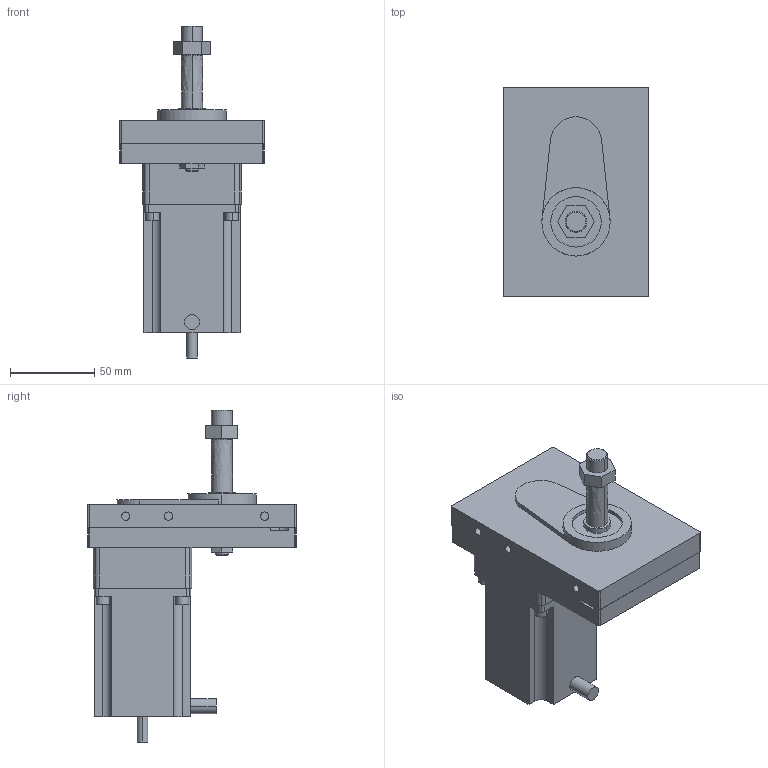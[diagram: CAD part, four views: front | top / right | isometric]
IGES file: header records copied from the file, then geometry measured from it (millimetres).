
Start section: 3D InterOp IGES (Version 21 0 3), Spatial Corp. Copyright (c) 1999-2007.
Global section: file name: export0.igs; native system: Spatial Corp.; preprocessor: 3D InterOp ACIS/IGES; author: Noname; organization: Noname; date: 20131204.232935; units: centimetre
Bounding box: 86.36 x 124.46 x 197.36 mm (x, y, z)
Surface area: 78703.6 mm2 (no closed solid volume)
Topology: 0 solids, 0 shells, 373 faces, 1714 edges, 1714 vertices
Faces by surface type: extrusion 197, revolution 176
